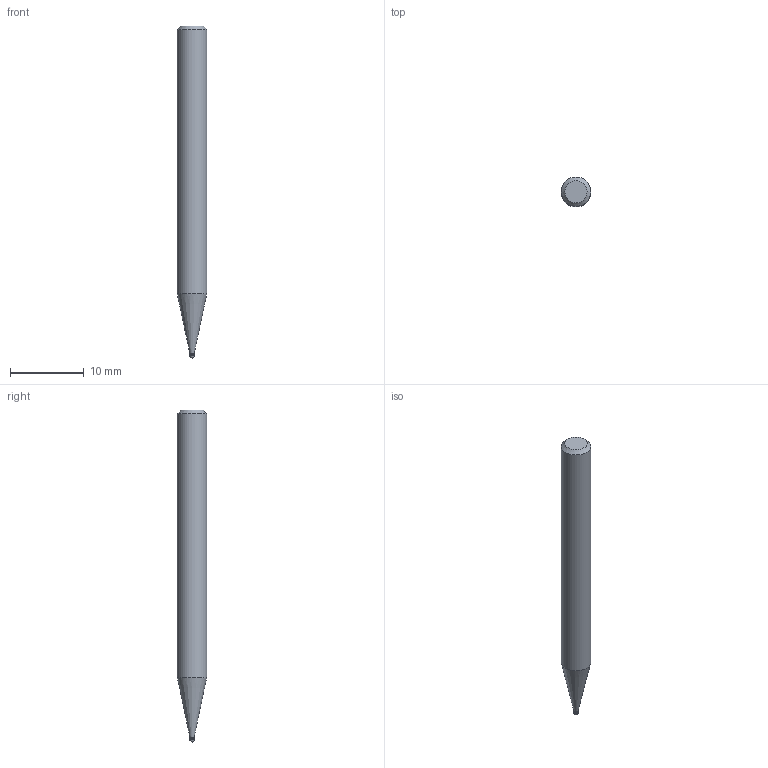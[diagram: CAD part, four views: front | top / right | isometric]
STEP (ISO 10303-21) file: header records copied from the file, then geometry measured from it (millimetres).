
FILE_DESCRIPTION((''),'2;1');
FILE_NAME('C:\Users\nsx150\AppData\Local\Temp\Mastercam 2021\ARV7HD45SN\TEMP.step','2023-06-13T16:33:46',(''),(''),'STEP Write','Mastercam 2021 ... CNC Software, Inc.','');
FILE_SCHEMA(('AUTOMOTIVE_DESIGN'));
Length unit declared in the file: millimetre
Products named in the file (1): None
Bounding box: 4 x 4 x 45 mm (x, y, z)
Volume: 494.3 mm3; surface area: 525.7 mm2
Topology: 2 solids, 2 shells, 9 faces, 14 edges, 8 vertices
Faces by surface type: plane 3, cylinder 3, cone 2, sphere 1
Full cylindrical faces by diameter (mm): 0.56 x1, 0.6 x1, 4 x1
Entity records: 211 total; most frequent: DIRECTION 36, CARTESIAN_POINT 25, AXIS2_PLACEMENT_3D 18, ORIENTED_EDGE 14, EDGE_LOOP 14, STYLED_ITEM 12, ADVANCED_FACE 9, FACE_BOUND 8
